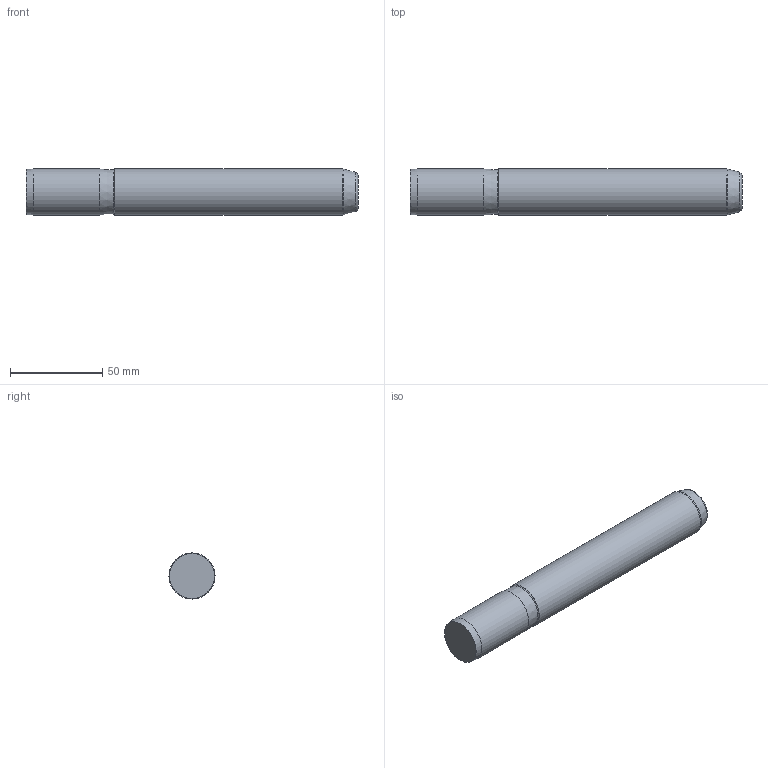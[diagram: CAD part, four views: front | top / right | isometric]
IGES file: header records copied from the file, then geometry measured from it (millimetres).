
Global section: file name: C925180.ipt; native system: Autodesk Inventor 2021; preprocessor: unknown; author: SM; date: 20220118.095238; units: millimetre
Bounding box: 180 x 25 x 25 mm (x, y, z)
Volume: 87469.3 mm3; surface area: 14881.5 mm2
Topology: 1 solids, 1 shells, 11 faces, 22 edges, 14 vertices
Faces by surface type: cone 4, plane 3, cylinder 2, revolution 2
Full cylindrical faces by diameter (mm): 25 x2
